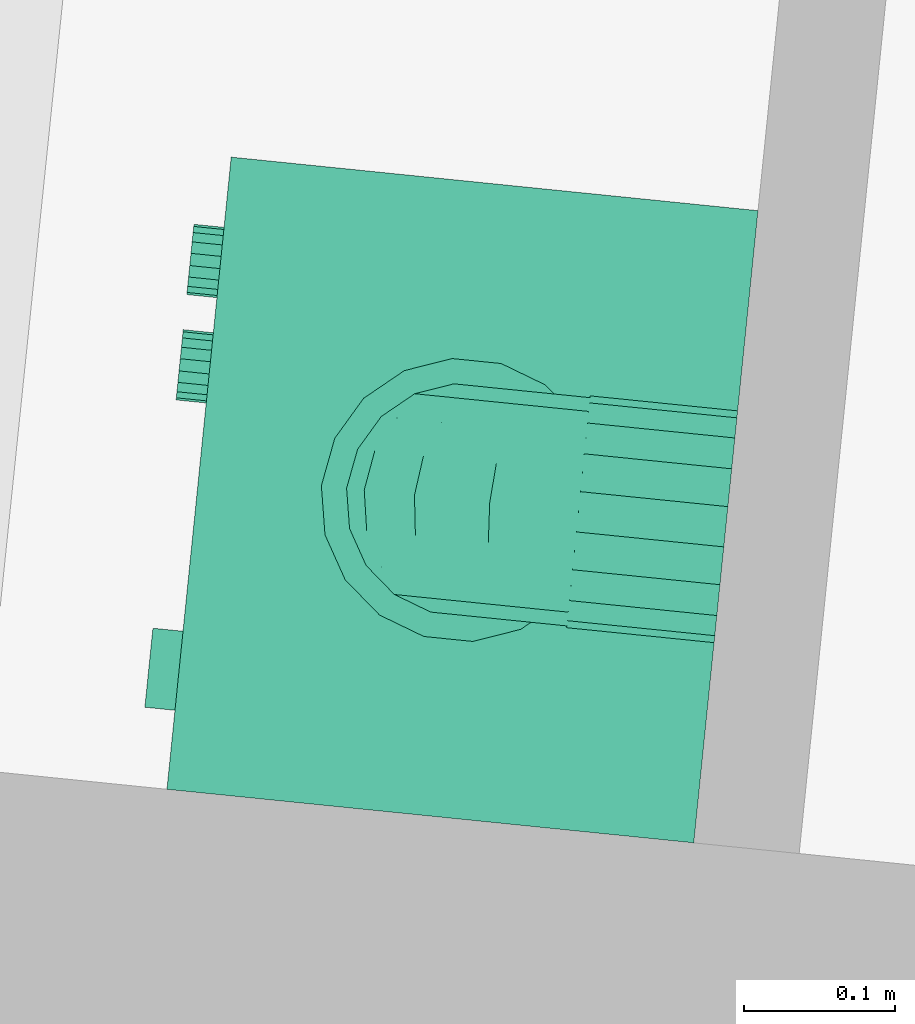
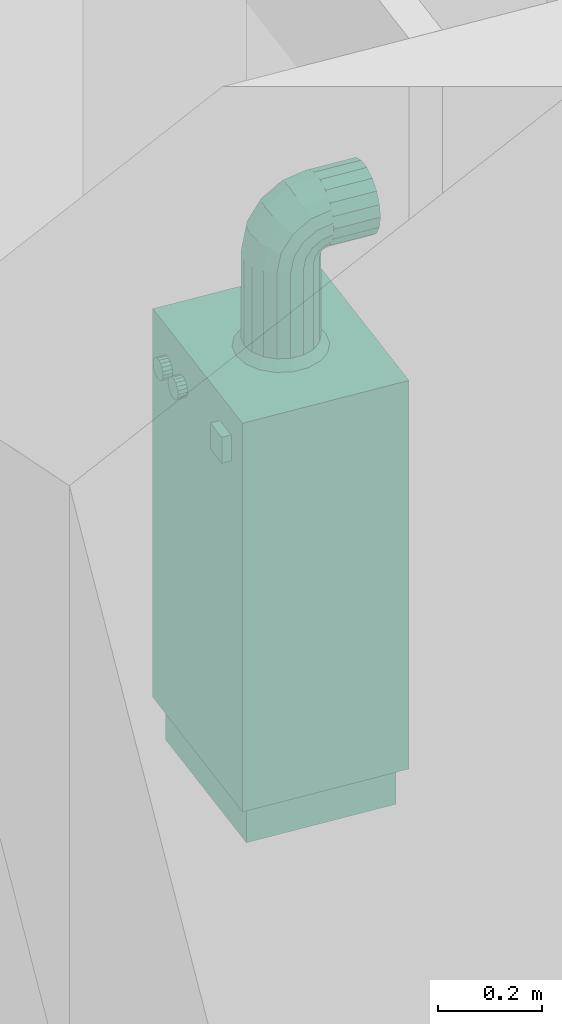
# One storey, part 127 of 171: 1 distribution element.
"""IFC2X3 building model written with IfcOpenShell, lengths in millimetres."""

from ifc_helpers import new_model, entity, si_unit, converted_unit, derived_unit, money_unit, direction, frame, origin_with_axes, place, context, subcontext, project, spatial, open_shell, faceted_brep, surface_model, source, transform, mapped, type_object, element, save


model = new_model("IFC2X3")

# Units and contexts
model_context = context("Model", 3, precision=0.01, world=origin_with_axes(), true_north=direction((0.0, 1.0)))
body_context = subcontext(model_context, "Body", "Model", "MODEL_VIEW")
ifc_project = project(units=[si_unit("LENGTHUNIT", "METRE", prefix="MILLI"), si_unit("AREAUNIT", "SQUARE_METRE"), si_unit("VOLUMEUNIT", "CUBIC_METRE"), converted_unit("PLANEANGLEUNIT", "DEGREE", entity("IfcPlaneAngleMeasure", 0.0174532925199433), si_unit("PLANEANGLEUNIT", "RADIAN"), dimensions=[0, 0, 0, 0, 0, 0, 0]), money_unit("USD"), converted_unit("TIMEUNIT", "Year", entity("IfcTimeMeasure", 31557600.0), si_unit("TIMEUNIT", "SECOND"), dimensions=[0, 0, 1, 0, 0, 0, 0]), si_unit("MASSUNIT", "GRAM", prefix="KILO"), si_unit("THERMODYNAMICTEMPERATUREUNIT", "DEGREE_CELSIUS"), si_unit("LUMINOUSINTENSITYUNIT", "LUMEN"), si_unit("ENERGYUNIT", "JOULE", prefix="MEGA"), derived_unit("THERMALCONDUCTANCEUNIT", [(si_unit("POWERUNIT", "WATT"), 1), (si_unit("LENGTHUNIT", "METRE"), -1), (si_unit("THERMODYNAMICTEMPERATUREUNIT", "KELVIN"), -1)]), derived_unit("SPECIFICHEATCAPACITYUNIT", [(si_unit("ENERGYUNIT", "JOULE"), 1), (si_unit("MASSUNIT", "GRAM", prefix="KILO"), -1), (si_unit("THERMODYNAMICTEMPERATUREUNIT", "KELVIN"), -1)]), derived_unit("MASSDENSITYUNIT", [(si_unit("MASSUNIT", "GRAM", prefix="KILO"), 1), (si_unit("VOLUMEUNIT", "CUBIC_METRE"), -1)])], contexts=[model_context])

# Site, building, storey
site_placement = place(None, origin_with_axes())
site = spatial("IfcSite", under=ifc_project, at=site_placement, Name="Site", CompositionType="ELEMENT")
building_placement = place(site_placement, origin_with_axes())
building = spatial("IfcBuilding", under=site, at=building_placement, Name="Bâtiment", CompositionType="ELEMENT")
storey_placement = place(building_placement, frame((0.0, 0.0, 3000.0), z_axis=(0.0, 0.0, 1.0), x_axis=(1.0, 0.0, 0.0)))
storey = spatial("IfcBuildingStorey", under=building, at=storey_placement, Name="rdc", CompositionType="ELEMENT", Elevation=3000.0)

# Distribution element
distribution_element_type = type_object("IfcDistributionElementType", Name="Chaudière à gaz 27")
shared_shape = source(origin_with_axes(), body_context, "Body", "SurfaceModel", [
    surface_model("IfcShellBasedSurfaceModel", [(-200.0, 350.0, 34.90909090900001), (-200.0, 368.0, 34.90909090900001), (-180.0709335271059, 368.0, 37.53280228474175), (-180.0709335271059, 350.0, 37.53280228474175), (-219.9290664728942, 350.0, 37.53280228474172), (-219.9290664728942, 368.0, 37.53280228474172), (-161.5, 368.0, 45.22513481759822), (-161.5, 350.0, 45.22513481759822), (-238.5000000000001, 350.0, 45.22513481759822), (-238.5000000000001, 368.0, 45.22513481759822), (-145.5527778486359, 368.0, 57.46186875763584), (-145.5527778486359, 350.0, 57.46186875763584), (-254.4472221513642, 350.0, 57.46186875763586), (-254.4472221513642, 368.0, 57.46186875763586), (-133.3160439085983, 368.0, 73.409090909), (-133.3160439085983, 350.0, 73.409090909), (-266.6839560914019, 350.0, 73.40909090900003), (-266.6839560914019, 368.0, 73.40909090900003), (-125.6237113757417, 368.0, 91.9800244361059), (-125.6237113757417, 350.0, 91.9800244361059), (-274.3762886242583, 350.0, 91.98002443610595), (-274.3762886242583, 368.0, 91.98002443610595), (-123.0, 368.0, 111.909090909), (-123.0, 350.0, 111.909090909), (-277.0, 350.0, 111.909090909), (-277.0, 368.0, 111.909090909), (-125.6237113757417, 368.0, 131.8381573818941), (-125.6237113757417, 350.0, 131.8381573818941), (-274.3762886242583, 350.0, 131.8381573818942), (-274.3762886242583, 368.0, 131.8381573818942), (-133.3160439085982, 368.0, 150.409090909), (-133.3160439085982, 350.0, 150.409090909), (-266.6839560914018, 350.0, 150.4090909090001), (-266.6839560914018, 368.0, 150.4090909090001), (-145.5527778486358, 368.0, 166.3563130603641), (-145.5527778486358, 350.0, 166.3563130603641), (-254.4472221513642, 350.0, 166.3563130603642), (-254.4472221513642, 368.0, 166.3563130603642), (-161.5, 368.0, 178.5930470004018), (-161.5, 350.0, 178.5930470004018), (-238.5, 350.0, 178.5930470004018), (-238.5, 368.0, 178.5930470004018), (-180.0709335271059, 368.0, 186.2853795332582), (-180.0709335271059, 350.0, 186.2853795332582), (-219.929066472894, 350.0, 186.2853795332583), (-219.929066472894, 368.0, 186.2853795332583), (-200.0, 368.0, 188.909090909), (-200.0, 350.0, 188.909090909)], [open_shell([[[0, 1, 2, 3]], [[4, 5, 1, 0]], [[3, 2, 6, 7]], [[8, 9, 5, 4]], [[7, 6, 10, 11]], [[12, 13, 9, 8]], [[11, 10, 14, 15]], [[16, 17, 13, 12]], [[15, 14, 18, 19]], [[20, 21, 17, 16]], [[19, 18, 22, 23]], [[24, 25, 21, 20]], [[23, 22, 26, 27]], [[28, 29, 25, 24]], [[27, 26, 30, 31]], [[32, 33, 29, 28]], [[31, 30, 34, 35]], [[36, 37, 33, 32]], [[35, 34, 38, 39]], [[40, 41, 37, 36]], [[39, 38, 42, 43]], [[44, 45, 41, 40]], [[43, 42, 46, 47]], [[47, 46, 45, 44]]])]),
    faceted_brep([(-200.0, 368.0, 14.909090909), (-200.0, 370.0, 14.909090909), (-174.8945526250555, 370.0, 18.21428575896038), (-174.8945526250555, 368.0, 18.21428575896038), (-225.1054473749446, 368.0, 18.21428575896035), (-225.1054473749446, 370.0, 18.21428575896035), (-248.5000000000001, 370.0, 27.90462674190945), (-268.5893577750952, 370.0, 43.31973313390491), (-284.0044641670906, 370.0, 63.40909090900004), (-293.6948051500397, 370.0, 86.80364353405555), (-297.0000000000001, 370.0, 111.909090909), (-293.6948051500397, 370.0, 137.0145382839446), (-284.0044641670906, 370.0, 160.4090909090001), (-268.5893577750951, 370.0, 180.4984486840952), (-248.5, 370.0, 195.9135550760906), (-225.1054473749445, 370.0, 205.6038960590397), (-199.9999999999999, 370.0, 208.909090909), (-174.8945526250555, 370.0, 205.6038960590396), (-151.5, 370.0, 195.9135550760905), (-131.4106422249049, 370.0, 180.4984486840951), (-115.9955358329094, 370.0, 160.409090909), (-106.3051948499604, 370.0, 137.0145382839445), (-103.0, 370.0, 111.909090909), (-106.3051948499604, 370.0, 86.80364353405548), (-115.9955358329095, 370.0, 63.40909090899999), (-131.4106422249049, 370.0, 43.31973313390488), (-151.5, 370.0, 27.90462674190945), (-200.0, 370.0, 34.90909090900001), (-180.0709335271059, 370.0, 37.53280228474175), (-161.5, 370.0, 45.22513481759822), (-145.5527778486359, 370.0, 57.46186875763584), (-133.3160439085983, 370.0, 73.409090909), (-125.6237113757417, 370.0, 91.9800244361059), (-123.0, 370.0, 111.909090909), (-125.6237113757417, 370.0, 131.8381573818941), (-133.3160439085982, 370.0, 150.409090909), (-145.5527778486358, 370.0, 166.3563130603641), (-161.5, 370.0, 178.5930470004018), (-180.0709335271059, 370.0, 186.2853795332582), (-200.0, 370.0, 188.909090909), (-219.929066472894, 370.0, 186.2853795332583), (-238.5, 370.0, 178.5930470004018), (-254.4472221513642, 370.0, 166.3563130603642), (-266.6839560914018, 370.0, 150.4090909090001), (-274.3762886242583, 370.0, 131.8381573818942), (-277.0, 370.0, 111.909090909), (-274.3762886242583, 370.0, 91.98002443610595), (-266.6839560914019, 370.0, 73.40909090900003), (-254.4472221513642, 370.0, 57.46186875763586), (-238.5000000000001, 370.0, 45.22513481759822), (-219.9290664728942, 370.0, 37.53280228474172), (-151.5, 368.0, 27.90462674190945), (-131.4106422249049, 368.0, 43.31973313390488), (-115.9955358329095, 368.0, 63.40909090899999), (-106.3051948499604, 368.0, 86.80364353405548), (-103.0, 368.0, 111.909090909), (-106.3051948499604, 368.0, 137.0145382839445), (-115.9955358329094, 368.0, 160.409090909), (-131.4106422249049, 368.0, 180.4984486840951), (-151.5, 368.0, 195.9135550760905), (-174.8945526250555, 368.0, 205.6038960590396), (-199.9999999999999, 368.0, 208.909090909), (-225.1054473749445, 368.0, 205.6038960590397), (-248.5, 368.0, 195.9135550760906), (-268.5893577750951, 368.0, 180.4984486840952), (-284.0044641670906, 368.0, 160.4090909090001), (-293.6948051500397, 368.0, 137.0145382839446), (-297.0000000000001, 368.0, 111.909090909), (-293.6948051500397, 368.0, 86.80364353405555), (-284.0044641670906, 368.0, 63.40909090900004), (-268.5893577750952, 368.0, 43.31973313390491), (-248.5000000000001, 368.0, 27.90462674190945), (-200.0, 368.0, 34.90909090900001), (-219.9290664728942, 368.0, 37.53280228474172), (-238.5000000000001, 368.0, 45.22513481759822), (-254.4472221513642, 368.0, 57.46186875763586), (-266.6839560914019, 368.0, 73.40909090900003), (-274.3762886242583, 368.0, 91.98002443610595), (-277.0, 368.0, 111.909090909), (-274.3762886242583, 368.0, 131.8381573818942), (-266.6839560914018, 368.0, 150.4090909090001), (-254.4472221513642, 368.0, 166.3563130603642), (-238.5, 368.0, 178.5930470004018), (-219.929066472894, 368.0, 186.2853795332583), (-200.0, 368.0, 188.909090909), (-180.0709335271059, 368.0, 186.2853795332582), (-161.5, 368.0, 178.5930470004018), (-145.5527778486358, 368.0, 166.3563130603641), (-133.3160439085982, 368.0, 150.409090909), (-125.6237113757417, 368.0, 131.8381573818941), (-123.0, 368.0, 111.909090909), (-125.6237113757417, 368.0, 91.9800244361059), (-133.3160439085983, 368.0, 73.409090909), (-145.5527778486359, 368.0, 57.46186875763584), (-161.5, 368.0, 45.22513481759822), (-180.0709335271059, 368.0, 37.53280228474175)], [[[0, 1, 2, 3]], [[4, 5, 1, 0]], [[1, 5, 6, 7, 8, 9, 10, 11, 12, 13, 14, 15, 16, 17, 18, 19, 20, 21, 22, 23, 24, 25, 26, 2], [27, 28, 29, 30, 31, 32, 33, 34, 35, 36, 37, 38, 39, 40, 41, 42, 43, 44, 45, 46, 47, 48, 49, 50]], [[3, 2, 26, 51]], [[0, 3, 51, 52, 53, 54, 55, 56, 57, 58, 59, 60, 61, 62, 63, 64, 65, 66, 67, 68, 69, 70, 71, 4], [72, 73, 74, 75, 76, 77, 78, 79, 80, 81, 82, 83, 84, 85, 86, 87, 88, 89, 90, 91, 92, 93, 94, 95]], [[71, 6, 5, 4]], [[70, 7, 6, 71]], [[69, 8, 7, 70]], [[68, 9, 8, 69]], [[67, 10, 9, 68]], [[66, 11, 10, 67]], [[65, 12, 11, 66]], [[64, 13, 12, 65]], [[63, 14, 13, 64]], [[62, 15, 14, 63]], [[61, 16, 15, 62]], [[60, 17, 16, 61]], [[59, 18, 17, 60]], [[58, 19, 18, 59]], [[57, 20, 19, 58]], [[56, 21, 20, 57]], [[55, 22, 21, 56]], [[54, 23, 22, 55]], [[53, 24, 23, 54]], [[52, 25, 24, 53]], [[51, 26, 25, 52]], [[95, 28, 27, 72]], [[94, 29, 28, 95]], [[93, 30, 29, 94]], [[92, 31, 30, 93]], [[91, 32, 31, 92]], [[90, 33, 32, 91]], [[89, 34, 33, 90]], [[88, 35, 34, 89]], [[87, 36, 35, 88]], [[86, 37, 36, 87]], [[85, 38, 37, 86]], [[84, 39, 38, 85]], [[83, 40, 39, 84]], [[82, 41, 40, 83]], [[81, 42, 41, 82]], [[80, 43, 42, 81]], [[79, 44, 43, 80]], [[78, 45, 44, 79]], [[77, 46, 45, 78]], [[76, 47, 46, 77]], [[75, 48, 47, 76]], [[74, 49, 48, 75]], [[73, 50, 49, 74]], [[72, 27, 50, 73]]]),
    faceted_brep([(-399.0, 17.5, 0.0), (-399.0, 332.5, 0.0), (-21.0, 332.5, 0.0), (-21.0, 17.5, 0.0), (-399.0, 17.5, 90.9090909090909), (-399.0, 332.5, 90.9090909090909), (-21.0, 332.5, 90.9090909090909), (-21.0, 17.5, 90.9090909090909)], [[[0, 1, 2, 3]], [[0, 4, 5, 1]], [[1, 5, 6, 2]], [[2, 6, 7, 3]], [[3, 7, 4, 0]], [[7, 6, 5, 4]]]),
    faceted_brep([(0.0, 350.0, 90.9090909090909), (-420.0, 350.0, 90.90909090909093), (-419.9999999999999, 350.0, 1000.0), (0.0, 350.0, 1000.0), (0.0, 0.0, 90.9090909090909), (-420.0, 0.0, 90.90909090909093), (-419.9999999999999, 0.0, 818.1818181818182), (-419.9999999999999, 17.5, 818.1818181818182), (-419.9999999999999, 17.5, 1000.0), (0.0, 17.5, 1000.0), (0.0, 17.5, 818.1818181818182), (0.0, 0.0, 818.1818181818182)], [[[0, 1, 2, 3]], [[4, 5, 1, 0]], [[1, 5, 6, 7, 8, 2]], [[3, 2, 8, 9]], [[0, 3, 9, 10, 11, 4]], [[11, 6, 5, 4]], [[10, 7, 6, 11]], [[9, 8, 7, 10]]]),
    faceted_brep([(-420.0, 0.0, 818.1818181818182), (-420.0, 17.5, 818.1818181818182), (0.0, 17.5, 818.1818181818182), (0.0, 0.0, 818.1818181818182), (-420.0, 0.0, 1000.0), (-420.0, 17.5, 1000.0), (0.0, 17.5, 1000.0), (0.0, 0.0, 1000.0)], [[[0, 1, 2, 3]], [[0, 4, 5, 1]], [[1, 5, 6, 2]], [[2, 6, 7, 3]], [[3, 7, 4, 0]], [[7, 6, 5, 4]]]),
    faceted_brep([(-301.9261611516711, 0.0, 901.1104390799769), (-303.3333333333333, 0.0, 909.0909090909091), (-301.9261611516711, 0.0, 917.0713791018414), (-297.8743703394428, 0.0, 924.0892866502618), (-291.6666666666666, 0.0, 929.2981685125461), (-284.0517908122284, 0.0, 932.0697566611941), (-275.9482091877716, 0.0, 932.0697566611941), (-268.3333333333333, 0.0, 929.2981685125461), (-262.1256296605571, 0.0, 924.0892866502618), (-258.0738388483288, 0.0, 917.0713791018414), (-256.6666666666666, 0.0, 909.0909090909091), (-258.0738388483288, 0.0, 901.1104390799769), (-262.1256296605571, 0.0, 894.0925315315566), (-268.3333333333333, 0.0, 888.8836496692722), (-275.9482091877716, 0.0, 886.1120615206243), (-284.0517908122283, 0.0, 886.1120615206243), (-291.6666666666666, 0.0, 888.8836496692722), (-297.8743703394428, 0.0, 894.0925315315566), (-301.9261611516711, -19.99999999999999, 901.1104390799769), (-303.3333333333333, -19.99999999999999, 909.0909090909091), (-301.9261611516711, -19.99999999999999, 917.0713791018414), (-297.8743703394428, -19.99999999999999, 924.0892866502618), (-291.6666666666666, -19.99999999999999, 929.2981685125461), (-284.0517908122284, -19.99999999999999, 932.0697566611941), (-275.9482091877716, -19.99999999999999, 932.0697566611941), (-268.3333333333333, -19.99999999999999, 929.2981685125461), (-262.1256296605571, -19.99999999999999, 924.0892866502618), (-258.0738388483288, -19.99999999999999, 917.0713791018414), (-256.6666666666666, -19.99999999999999, 909.0909090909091), (-258.0738388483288, -19.99999999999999, 901.1104390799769), (-262.1256296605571, -19.99999999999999, 894.0925315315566), (-268.3333333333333, -19.99999999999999, 888.8836496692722), (-275.9482091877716, -19.99999999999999, 886.1120615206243), (-284.0517908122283, -19.99999999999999, 886.1120615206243), (-291.6666666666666, -19.99999999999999, 888.8836496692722), (-297.8743703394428, -19.99999999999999, 894.0925315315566)], [[[0, 1, 2, 3, 4, 5, 6, 7, 8, 9, 10, 11, 12, 13, 14, 15, 16, 17]], [[0, 18, 19, 1]], [[1, 19, 20, 2]], [[2, 20, 21, 3]], [[3, 21, 22, 4]], [[4, 22, 23, 5]], [[5, 23, 24, 6]], [[6, 24, 25, 7]], [[7, 25, 26, 8]], [[8, 26, 27, 9]], [[9, 27, 28, 10]], [[10, 28, 29, 11]], [[11, 29, 30, 12]], [[12, 30, 31, 13]], [[13, 31, 32, 14]], [[14, 32, 33, 15]], [[15, 33, 34, 16]], [[16, 34, 35, 17]], [[17, 35, 18, 0]], [[18, 35, 34, 33, 32, 31, 30, 29, 28, 27, 26, 25, 24, 23, 22, 21, 20, 19]]]),
    faceted_brep([(-371.9261611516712, 0.0, 901.1104390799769), (-373.3333333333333, 0.0, 909.0909090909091), (-371.9261611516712, 0.0, 917.0713791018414), (-367.8743703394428, 0.0, 924.0892866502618), (-361.6666666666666, 0.0, 929.2981685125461), (-354.0517908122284, 0.0, 932.0697566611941), (-345.9482091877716, 0.0, 932.0697566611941), (-338.3333333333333, 0.0, 929.2981685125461), (-332.1256296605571, 0.0, 924.0892866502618), (-328.0738388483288, 0.0, 917.0713791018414), (-326.6666666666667, 0.0, 909.0909090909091), (-328.0738388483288, 0.0, 901.1104390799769), (-332.1256296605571, 0.0, 894.0925315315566), (-338.3333333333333, 0.0, 888.8836496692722), (-345.9482091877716, 0.0, 886.1120615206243), (-354.0517908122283, 0.0, 886.1120615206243), (-361.6666666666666, 0.0, 888.8836496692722), (-367.8743703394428, 0.0, 894.0925315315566), (-371.9261611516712, -19.99999999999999, 901.1104390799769), (-373.3333333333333, -19.99999999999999, 909.0909090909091), (-371.9261611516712, -19.99999999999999, 917.0713791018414), (-367.8743703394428, -19.99999999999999, 924.0892866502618), (-361.6666666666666, -19.99999999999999, 929.2981685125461), (-354.0517908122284, -19.99999999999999, 932.0697566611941), (-345.9482091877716, -19.99999999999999, 932.0697566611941), (-338.3333333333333, -19.99999999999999, 929.2981685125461), (-332.1256296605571, -19.99999999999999, 924.0892866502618), (-328.0738388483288, -19.99999999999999, 917.0713791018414), (-326.6666666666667, -19.99999999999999, 909.0909090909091), (-328.0738388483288, -19.99999999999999, 901.1104390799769), (-332.1256296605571, -19.99999999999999, 894.0925315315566), (-338.3333333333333, -19.99999999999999, 888.8836496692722), (-345.9482091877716, -19.99999999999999, 886.1120615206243), (-354.0517908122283, -19.99999999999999, 886.1120615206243), (-361.6666666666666, -19.99999999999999, 888.8836496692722), (-367.8743703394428, -19.99999999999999, 894.0925315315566)], [[[0, 1, 2, 3, 4, 5, 6, 7, 8, 9, 10, 11, 12, 13, 14, 15, 16, 17]], [[0, 18, 19, 1]], [[1, 19, 20, 2]], [[2, 20, 21, 3]], [[3, 21, 22, 4]], [[4, 22, 23, 5]], [[5, 23, 24, 6]], [[6, 24, 25, 7]], [[7, 25, 26, 8]], [[8, 26, 27, 9]], [[9, 27, 28, 10]], [[10, 28, 29, 11]], [[11, 29, 30, 12]], [[12, 30, 31, 13]], [[13, 31, 32, 14]], [[14, 32, 33, 15]], [[15, 33, 34, 16]], [[16, 34, 35, 17]], [[17, 35, 18, 0]], [[18, 35, 34, 33, 32, 31, 30, 29, 28, 27, 26, 25, 24, 23, 22, 21, 20, 19]]]),
    faceted_brep([(-105.0, 0.0, 878.7878787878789), (-105.0, 0.0, 939.3939393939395), (-52.5, 0.0, 939.3939393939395), (-52.5, 0.0, 878.7878787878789), (-105.0, -20.0, 878.7878787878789), (-105.0, -19.99999999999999, 939.3939393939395), (-52.5, -19.99999999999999, 939.3939393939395), (-52.5, -20.0, 878.7878787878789)], [[[0, 1, 2, 3]], [[0, 4, 5, 1]], [[1, 5, 6, 2]], [[2, 6, 7, 3]], [[3, 7, 4, 0]], [[7, 6, 5, 4]]]),
    surface_model("IfcShellBasedSurfaceModel", [(-183.6644489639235, 247.3563318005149, 1220.0), (-183.6644489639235, 247.3563318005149, 1020.0), (-210.0, 252.0, 1020.0), (-210.0, 252.0, 1220.0), (-160.5053540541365, 233.9854221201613, 1220.0), (-160.5053540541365, 233.9854221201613, 1020.0), (-177.9356115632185, 263.0961831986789, 1000.0), (-210.0, 268.75, 1000.0), (-236.3355510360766, 247.356331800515, 1020.0), (-236.3355510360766, 247.356331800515, 1220.0), (-143.3160439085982, 213.5, 1220.0), (-143.3160439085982, 213.5, 1020.0), (-149.7386615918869, 246.8166665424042, 1000.0), (-242.0643884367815, 263.0961831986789, 1000.0), (-259.4946459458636, 233.9854221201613, 1020.0), (-259.4946459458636, 233.9854221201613, 1220.0), (-134.16980301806, 188.3709096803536, 1220.0), (-134.16980301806, 188.3709096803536, 1020.0), (-128.8101183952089, 221.875, 1000.0), (-270.2613384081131, 246.8166665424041, 1000.0), (-276.6839560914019, 213.5, 1020.0), (-276.6839560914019, 213.5, 1220.0), (-134.16980301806, 161.6290903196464, 1220.0), (-134.16980301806, 161.6290903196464, 1020.0), (-117.6742731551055, 191.2795166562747, 1000.0), (-291.1898816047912, 221.8749999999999, 1000.0), (-285.83019698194, 188.3709096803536, 1020.0), (-285.83019698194, 188.3709096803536, 1220.0), (-143.3160439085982, 136.5, 1220.0), (-143.3160439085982, 136.5, 1020.0), (-117.6742731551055, 158.7204833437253, 1000.0), (-302.3257268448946, 191.2795166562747, 1000.0), (-285.83019698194, 161.6290903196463, 1020.0), (-285.83019698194, 161.6290903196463, 1220.0), (-160.5053540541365, 116.0145778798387, 1220.0), (-160.5053540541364, 116.0145778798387, 1020.0), (-128.8101183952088, 128.125, 1000.0), (-302.3257268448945, 158.7204833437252, 1000.0), (-276.6839560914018, 136.4999999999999, 1020.0), (-276.6839560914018, 136.4999999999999, 1220.0), (-183.6644489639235, 102.643668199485, 1220.0), (-183.6644489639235, 102.643668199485, 1020.0), (-149.7386615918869, 103.1833334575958, 1000.0), (-291.1898816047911, 128.1249999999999, 1000.0), (-259.4946459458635, 116.0145778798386, 1020.0), (-259.4946459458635, 116.0145778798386, 1220.0), (-210.0, 97.99999999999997, 1220.0), (-210.0, 97.99999999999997, 1020.0), (-177.9356115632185, 86.90381680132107, 1000.0), (-270.261338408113, 103.1833334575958, 1000.0), (-236.3355510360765, 102.643668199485, 1020.0), (-236.3355510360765, 102.643668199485, 1220.0), (-210.0, 81.24999999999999, 1000.0), (-242.0643884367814, 86.90381680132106, 1000.0)], [open_shell([[[0, 1, 2, 3]], [[4, 5, 1, 0]], [[1, 6, 7, 2]], [[3, 2, 8, 9]], [[10, 11, 5, 4]], [[5, 12, 6, 1]], [[2, 7, 13, 8]], [[9, 8, 14, 15]], [[16, 17, 11, 10]], [[11, 18, 12, 5]], [[8, 13, 19, 14]], [[15, 14, 20, 21]], [[22, 23, 17, 16]], [[17, 24, 18, 11]], [[14, 19, 25, 20]], [[21, 20, 26, 27]], [[28, 29, 23, 22]], [[23, 30, 24, 17]], [[20, 25, 31, 26]], [[27, 26, 32, 33]], [[34, 35, 29, 28]], [[29, 36, 30, 23]], [[26, 31, 37, 32]], [[33, 32, 38, 39]], [[40, 41, 35, 34]], [[35, 42, 36, 29]], [[32, 37, 43, 38]], [[39, 38, 44, 45]], [[46, 47, 41, 40]], [[41, 48, 42, 35]], [[38, 43, 49, 44]], [[45, 44, 50, 51]], [[51, 50, 47, 46]], [[47, 52, 48, 41]], [[44, 49, 53, 50]], [[50, 53, 52, 47]]])]),
    faceted_brep([(-285.83019698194, 161.6290903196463, 1220.0), (-285.83019698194, 168.5081662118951, 1254.583449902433), (-285.83019698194, 193.2143857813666, 1244.349798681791), (-285.83019698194, 188.3709096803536, 1220.0), (-276.6839560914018, 136.4999999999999, 1220.0), (-276.6839560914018, 145.2919139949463, 1264.199936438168), (-285.83019698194, 188.0981169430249, 1283.901883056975), (-285.83019698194, 207.0074387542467, 1264.992561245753), (-276.6839560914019, 213.4999999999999, 1220.0), (-276.6839560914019, 216.4306379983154, 1234.733312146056), (-259.4946459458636, 233.9854221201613, 1220.0), (-236.3355510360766, 247.356331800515, 1220.0), (-210.0, 252.0, 1220.0), (-183.6644489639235, 247.3563318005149, 1220.0), (-160.5053540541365, 233.9854221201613, 1220.0), (-143.3160439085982, 213.5, 1220.0), (-134.16980301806, 188.3709096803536, 1220.0), (-134.16980301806, 161.6290903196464, 1220.0), (-143.3160439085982, 136.5, 1220.0), (-160.5053540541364, 116.0145778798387, 1220.0), (-183.6644489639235, 102.643668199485, 1220.0), (-210.0, 97.99999999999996, 1220.0), (-236.3355510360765, 102.643668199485, 1220.0), (-259.4946459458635, 116.0145778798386, 1220.0), (-259.4946459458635, 126.3658517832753, 1272.039368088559), (-276.6839560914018, 170.3291667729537, 1301.670833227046), (-285.83019698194, 217.4165500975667, 1303.491833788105), (-285.83019698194, 227.6502013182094, 1278.785614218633), (-276.6839560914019, 224.7763889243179, 1247.223611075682), (-259.4946459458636, 235.3567002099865, 1226.893880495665), (-236.3355510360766, 247.7098099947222, 1221.777054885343), (-183.6644489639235, 247.7098099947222, 1221.777054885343), (-160.5053540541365, 235.3567002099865, 1226.893880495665), (-143.3160439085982, 216.4306379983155, 1234.733312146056), (-134.16980301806, 193.2143857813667, 1244.349798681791), (-134.16980301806, 168.5081662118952, 1254.583449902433), (-143.3160439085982, 145.2919139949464, 1264.199936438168), (-160.5053540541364, 126.3658517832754, 1272.039368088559), (-183.6644489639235, 114.0127419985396, 1277.15619369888), (-210.0, 109.7225519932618, 1278.933248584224), (-236.3355510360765, 114.0127419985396, 1277.15619369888), (-259.4946459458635, 155.8437858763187, 1316.156214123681), (-276.6839560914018, 207.8000635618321, 1326.708086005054), (-285.83019698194, 252.0, 1310.370909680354), (-285.83019698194, 252.0, 1283.629090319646), (-276.6839560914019, 237.266687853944, 1255.569362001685), (-259.4946459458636, 239.2617698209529, 1232.738230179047), (-236.3355510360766, 248.7164307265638, 1223.283569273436), (-183.6644489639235, 248.7164307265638, 1223.283569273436), (-160.5053540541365, 239.2617698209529, 1232.738230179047), (-143.3160439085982, 224.7763889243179, 1247.223611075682), (-134.16980301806, 207.0074387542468, 1264.992561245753), (-134.16980301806, 188.0981169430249, 1283.901883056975), (-143.3160439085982, 170.3291667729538, 1301.670833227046), (-160.5053540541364, 155.8437858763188, 1316.156214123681), (-183.6644489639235, 146.3891249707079, 1325.610875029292), (-210.0, 143.1055556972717, 1328.894444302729), (-236.3355510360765, 146.3891249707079, 1325.610875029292), (-259.4946459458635, 199.9606319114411, 1345.634148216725), (-276.6839560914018, 252.0, 1335.5), (-276.6839560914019, 252.0, 1258.5), (-259.4946459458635, 252.0, 1355.985422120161), (-236.3355510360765, 252.0, 1369.356331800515), (-210.0, 252.0, 1374.0), (-183.6644489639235, 252.0, 1369.356331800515), (-160.5053540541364, 252.0, 1355.985422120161), (-143.3160439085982, 252.0, 1335.5), (-134.16980301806, 252.0, 1310.370909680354), (-134.16980301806, 252.0, 1283.629090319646), (-143.3160439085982, 252.0, 1258.5), (-160.5053540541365, 252.0, 1238.014577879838), (-183.6644489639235, 252.0, 1224.643668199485), (-236.3355510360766, 252.0, 1224.643668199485), (-259.4946459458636, 252.0, 1238.014577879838), (-259.4946459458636, 245.1061195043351, 1236.643299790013), (-236.3355510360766, 250.2229451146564, 1224.290190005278), (-183.6644489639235, 250.2229451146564, 1224.290190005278), (-160.5053540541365, 245.1061195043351, 1236.643299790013), (-143.3160439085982, 237.2666878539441, 1255.569362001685), (-134.16980301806, 227.6502013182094, 1278.785614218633), (-134.16980301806, 217.4165500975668, 1303.491833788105), (-143.3160439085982, 207.8000635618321, 1326.708086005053), (-160.5053540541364, 199.9606319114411, 1345.634148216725), (-183.6644489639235, 194.8438063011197, 1357.98725800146), (-210.0, 193.0667514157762, 1362.277448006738), (-236.3355510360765, 194.8438063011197, 1357.98725800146)], [[[0, 1, 2, 3]], [[1, 0, 4, 5]], [[1, 6, 7, 2]], [[8, 3, 2, 9]], [[4, 0, 3, 8, 10, 11, 12, 13, 14, 15, 16, 17, 18, 19, 20, 21, 22, 23]], [[5, 4, 23, 24]], [[6, 1, 5, 25]], [[7, 6, 26, 27]], [[2, 7, 28, 9]], [[29, 10, 8, 9]], [[10, 29, 30, 11]], [[11, 30, 12]], [[31, 13, 12]], [[13, 31, 32, 14]], [[33, 15, 14, 32]], [[15, 33, 34, 16]], [[35, 17, 16, 34]], [[18, 17, 35, 36]], [[37, 19, 18, 36]], [[20, 19, 37, 38]], [[39, 21, 20, 38]], [[22, 21, 39, 40]], [[24, 23, 22, 40]], [[25, 5, 24, 41]], [[6, 25, 42, 26]], [[27, 26, 43, 44]], [[45, 28, 7, 27]], [[46, 29, 9, 28]], [[29, 46, 47, 30]], [[30, 47, 12]], [[48, 31, 12]], [[31, 48, 49, 32]], [[32, 49, 50, 33]], [[34, 33, 50, 51]], [[52, 35, 34, 51]], [[35, 52, 53, 36]], [[54, 37, 36, 53]], [[38, 37, 54, 55]], [[56, 39, 38, 55]], [[57, 40, 39, 56]], [[41, 24, 40, 57]], [[42, 25, 41, 58]], [[26, 42, 59, 43]], [[60, 44, 43, 59, 61, 62, 63, 64, 65, 66, 67, 68, 69, 70, 71, 12, 72, 73]], [[45, 27, 44, 60]], [[28, 45, 74, 46]], [[46, 74, 75, 47]], [[47, 75, 12]], [[76, 48, 12]], [[48, 76, 77, 49]], [[49, 77, 78, 50]], [[50, 78, 79, 51]], [[52, 51, 79, 80]], [[53, 52, 80, 81]], [[82, 54, 53, 81]], [[55, 54, 82, 83]], [[56, 55, 83, 84]], [[85, 57, 56, 84]], [[58, 41, 57, 85]], [[59, 42, 58, 61]], [[61, 58, 85, 62]], [[62, 85, 84, 63]], [[84, 83, 64, 63]], [[82, 65, 64, 83]], [[65, 82, 81, 66]], [[81, 80, 67, 66]], [[80, 79, 68, 67]], [[79, 78, 69, 68]], [[77, 70, 69, 78]], [[77, 76, 71, 70]], [[76, 12, 71]], [[75, 72, 12]], [[74, 73, 72, 75]], [[45, 60, 73, 74]]]),
    surface_model("IfcShellBasedSurfaceModel", [(-137.643668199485, 350.0, 1323.335551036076), (-137.643668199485, 252.0, 1323.335551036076), (-133.0, 252.0, 1297.0), (-133.0, 350.0, 1297.0), (-151.0145778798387, 350.0, 1346.494645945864), (-151.0145778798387, 252.0, 1346.494645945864), (-137.643668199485, 252.0, 1270.664448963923), (-137.643668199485, 350.0, 1270.664448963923), (-171.5, 350.0, 1363.683956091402), (-171.5, 252.0, 1363.683956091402), (-151.0145778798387, 252.0, 1247.505354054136), (-151.0145778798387, 350.0, 1247.505354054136), (-196.6290903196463, 350.0, 1372.83019698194), (-196.6290903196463, 252.0, 1372.83019698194), (-171.5, 252.0, 1230.316043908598), (-171.5, 350.0, 1230.316043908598), (-223.3709096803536, 350.0, 1372.83019698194), (-223.3709096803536, 252.0, 1372.83019698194), (-196.6290903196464, 252.0, 1221.16980301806), (-196.6290903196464, 350.0, 1221.16980301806), (-248.5, 350.0, 1363.683956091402), (-248.5, 252.0, 1363.683956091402), (-223.3709096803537, 252.0, 1221.16980301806), (-223.3709096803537, 350.0, 1221.16980301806), (-268.9854221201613, 350.0, 1346.494645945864), (-268.9854221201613, 252.0, 1346.494645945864), (-248.5000000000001, 252.0, 1230.316043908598), (-248.5000000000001, 350.0, 1230.316043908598), (-282.356331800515, 350.0, 1323.335551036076), (-282.356331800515, 252.0, 1323.335551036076), (-268.9854221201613, 252.0, 1247.505354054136), (-268.9854221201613, 350.0, 1247.505354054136), (-287.0000000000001, 350.0, 1297.0), (-287.0000000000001, 252.0, 1297.0), (-282.356331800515, 252.0, 1270.664448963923), (-282.356331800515, 350.0, 1270.664448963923)], [open_shell([[[0, 1, 2, 3]], [[4, 5, 1, 0]], [[3, 2, 6, 7]], [[8, 9, 5, 4]], [[7, 6, 10, 11]], [[12, 13, 9, 8]], [[11, 10, 14, 15]], [[16, 17, 13, 12]], [[15, 14, 18, 19]], [[20, 21, 17, 16]], [[19, 18, 22, 23]], [[24, 25, 21, 20]], [[23, 22, 26, 27]], [[28, 29, 25, 24]], [[27, 26, 30, 31]], [[32, 33, 29, 28]], [[31, 30, 34, 35]], [[35, 34, 33, 32]]])]),
])
distribution_element_placement = place(storey_placement, frame((2224905.384861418, -607900.0669169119, 900.000015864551), z_axis=(0.0, 0.0, 1.0), x_axis=(-0.101103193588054, -0.9948759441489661, 0.0)))
element("IfcDistributionElement", 1, at=distribution_element_placement, inside=storey, type_object=distribution_element_type, Name="Obj.-003", context=body_context, shape_type="MappedRepresentation", body=[
    mapped(shared_shape, transform((0.0, 0.0, 0.0))),
])

save(model, "model.ifc")
